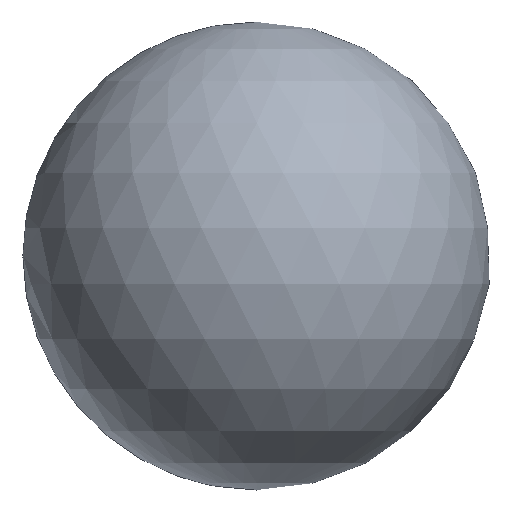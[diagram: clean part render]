
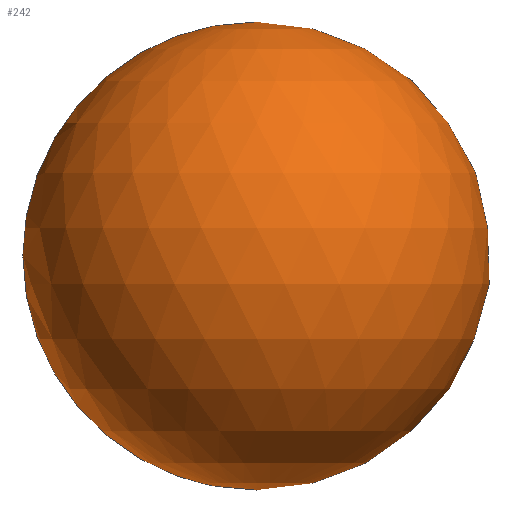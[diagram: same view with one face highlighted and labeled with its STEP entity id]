
A CAD part, front view. The second image highlights one B-rep face of the part: STEP entity #242.
In plain terms, the highlighted spherical face has radius 15.3 mm.
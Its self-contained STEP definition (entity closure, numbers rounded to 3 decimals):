
#19=SPHERICAL_SURFACE('',#282,15.3);
#21=FACE_BOUND('',#58,.T.);
#43=FACE_OUTER_BOUND('',#57,.T.);
#57=EDGE_LOOP('',(#209,#210));
#58=EDGE_LOOP('',(#211,#212));
#104=CIRCLE('',#278,6.5);
#105=CIRCLE('',#279,6.5);
#108=CIRCLE('',#283,15.3);
#127=VERTEX_POINT('',#406);
#128=VERTEX_POINT('',#407);
#131=VERTEX_POINT('',#416);
#132=VERTEX_POINT('',#417);
#158=EDGE_CURVE('',#127,#128,#104,.T.);
#159=EDGE_CURVE('',#128,#127,#105,.T.);
#163=EDGE_CURVE('',#131,#132,#108,.T.);
#209=ORIENTED_EDGE('',*,*,#163,.T.);
#210=ORIENTED_EDGE('',*,*,#163,.F.);
#211=ORIENTED_EDGE('',*,*,#158,.T.);
#212=ORIENTED_EDGE('',*,*,#159,.T.);
#242=ADVANCED_FACE('',(#43,#21),#19,.T.);
#278=AXIS2_PLACEMENT_3D('',#408,#332,#333);
#279=AXIS2_PLACEMENT_3D('',#409,#334,#335);
#282=AXIS2_PLACEMENT_3D('',#415,#341,#342);
#283=AXIS2_PLACEMENT_3D('',#418,#343,#344);
#332=DIRECTION('center_axis',(0.,-1.,0.));
#333=DIRECTION('ref_axis',(1.,0.,0.));
#334=DIRECTION('center_axis',(0.,-1.,0.));
#335=DIRECTION('ref_axis',(1.,0.,0.));
#341=DIRECTION('center_axis',(0.,0.,1.));
#342=DIRECTION('ref_axis',(1.,0.,0.));
#343=DIRECTION('center_axis',(0.,-1.,0.));
#344=DIRECTION('ref_axis',(-1.,0.,0.));
#406=CARTESIAN_POINT('',(6.5,-22.149,0.));
#407=CARTESIAN_POINT('',(-6.5,-22.149,0.));
#408=CARTESIAN_POINT('Origin',(0.,-22.149,0.));
#409=CARTESIAN_POINT('Origin',(0.,-22.149,0.));
#415=CARTESIAN_POINT('Origin',(0.,-36.,0.));
#416=CARTESIAN_POINT('',(0.,-36.,15.3));
#417=CARTESIAN_POINT('',(0.,-36.,-15.3));
#418=CARTESIAN_POINT('Origin',(0.,-36.,0.));
